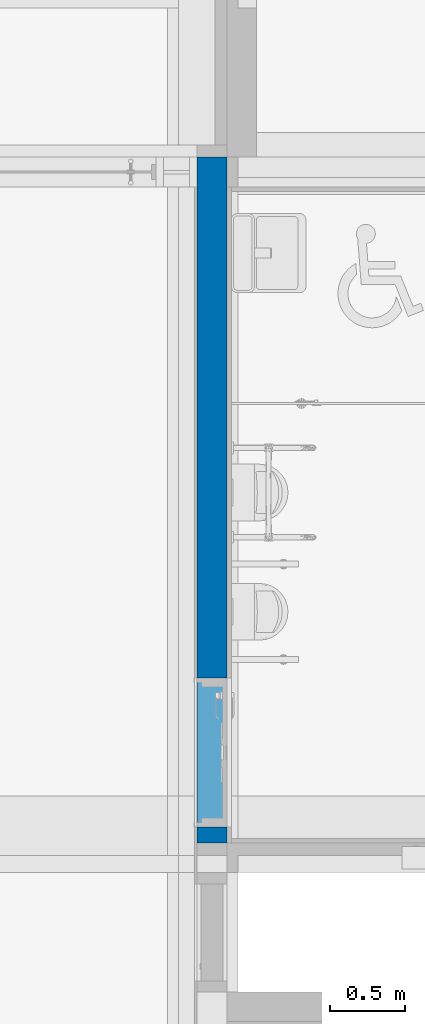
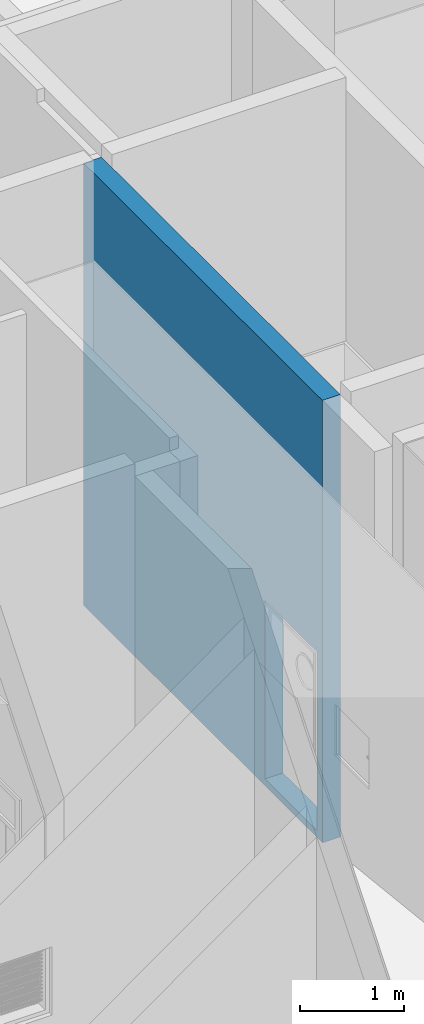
# One storey, part 50 of 100: 1 wall, 1 opening.
"""IFC2X3 building model written with IfcOpenShell, lengths in millimetres."""

from ifc_helpers import new_model, entity, si_unit, converted_unit, derived_unit, direction, frame, frame_2d, origin, place, context, subcontext, project, spatial, polyline, rectangle, extrude, clip, bounded_halfspace, material, layer, layer_set, layer_usage, type_object, element, save


model = new_model("IFC2X3")

# Units and contexts
model_context = context("Model", 3, precision=0.01, world=origin(), true_north=direction((6.123031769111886e-17, 1.0)))
body_context = subcontext(model_context, "Body", "Model", "MODEL_VIEW")
ifc_project = project(units=[si_unit("LENGTHUNIT", "METRE", prefix="MILLI"), si_unit("AREAUNIT", "SQUARE_METRE"), si_unit("VOLUMEUNIT", "CUBIC_METRE"), converted_unit("PLANEANGLEUNIT", "DEGREE", entity("IfcRatioMeasure", 0.017453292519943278), si_unit("PLANEANGLEUNIT", "RADIAN"), dimensions=[0, 0, 0, 0, 0, 0, 0]), si_unit("MASSUNIT", "GRAM", prefix="KILO"), derived_unit("MASSDENSITYUNIT", [(si_unit("MASSUNIT", "GRAM", prefix="KILO"), 1), (si_unit("LENGTHUNIT", "METRE"), -3)]), derived_unit("MOMENTOFINERTIAUNIT", [(si_unit("LENGTHUNIT", "METRE"), 4)]), si_unit("TIMEUNIT", "SECOND"), si_unit("FREQUENCYUNIT", "HERTZ"), si_unit("THERMODYNAMICTEMPERATUREUNIT", "DEGREE_CELSIUS"), derived_unit("THERMALTRANSMITTANCEUNIT", [(si_unit("MASSUNIT", "GRAM", prefix="KILO"), 1), (si_unit("THERMODYNAMICTEMPERATUREUNIT", "KELVIN"), -1), (si_unit("TIMEUNIT", "SECOND"), -3)]), derived_unit("VOLUMETRICFLOWRATEUNIT", [(si_unit("LENGTHUNIT", "METRE"), 3), (si_unit("TIMEUNIT", "SECOND"), -1)]), derived_unit("MASSFLOWRATEUNIT", [(si_unit("MASSUNIT", "GRAM", prefix="KILO"), 1), (si_unit("TIMEUNIT", "SECOND"), -1)]), derived_unit("ROTATIONALFREQUENCYUNIT", [(si_unit("TIMEUNIT", "SECOND"), -1)]), si_unit("ELECTRICCURRENTUNIT", "AMPERE"), si_unit("ELECTRICVOLTAGEUNIT", "VOLT"), si_unit("POWERUNIT", "WATT"), si_unit("FORCEUNIT", "NEWTON", prefix="KILO"), si_unit("ILLUMINANCEUNIT", "LUX"), si_unit("LUMINOUSFLUXUNIT", "LUMEN"), si_unit("LUMINOUSINTENSITYUNIT", "CANDELA"), derived_unit("USERDEFINED", [(si_unit("MASSUNIT", "GRAM", prefix="KILO"), -1), (si_unit("LENGTHUNIT", "METRE"), -2), (si_unit("TIMEUNIT", "SECOND"), 3), (si_unit("LUMINOUSFLUXUNIT", "LUMEN"), 1)]), derived_unit("SOUNDPOWERUNIT", [(si_unit("MASSUNIT", "GRAM", prefix="KILO"), 1), (si_unit("LENGTHUNIT", "METRE"), 2), (si_unit("TIMEUNIT", "SECOND"), -3)]), derived_unit("SOUNDPRESSUREUNIT", [(si_unit("MASSUNIT", "GRAM", prefix="KILO"), 1), (si_unit("LENGTHUNIT", "METRE"), -1), (si_unit("TIMEUNIT", "SECOND"), -2)]), derived_unit("LINEARVELOCITYUNIT", [(si_unit("LENGTHUNIT", "METRE"), 1), (si_unit("TIMEUNIT", "SECOND"), -1)]), si_unit("PRESSUREUNIT", "PASCAL"), derived_unit("USERDEFINED", [(si_unit("LENGTHUNIT", "METRE"), -2), (si_unit("MASSUNIT", "GRAM", prefix="KILO"), 1), (si_unit("TIMEUNIT", "SECOND"), -2)]), derived_unit("LINEARFORCEUNIT", [(si_unit("MASSUNIT", "GRAM", prefix="KILO"), 1), (si_unit("LENGTHUNIT", "METRE"), 1), (si_unit("TIMEUNIT", "SECOND"), -2), (si_unit("LENGTHUNIT", "METRE"), -1)]), derived_unit("PLANARFORCEUNIT", [(si_unit("MASSUNIT", "GRAM", prefix="KILO"), 1), (si_unit("LENGTHUNIT", "METRE"), 1), (si_unit("TIMEUNIT", "SECOND"), -2), (si_unit("LENGTHUNIT", "METRE"), -2)])], contexts=[model_context])

# Site, building, storey
site_placement = place(None, frame((-14167.972527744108, -657.2125860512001, 0.0)))
site = spatial("IfcSite", under=ifc_project, at=site_placement, Name="Default", CompositionType="ELEMENT")
building_placement = place(site_placement, origin())
building = spatial("IfcBuilding", under=site, at=building_placement, Name="Sample Building", CompositionType="ELEMENT")
storey_placement = place(building_placement, origin())
storey = spatial("IfcBuildingStorey", under=building, at=storey_placement, Name="지상 1층", CompositionType="ELEMENT", Elevation=0.0)

# Wall, opening
ifc_material = material(Name="KBIMS-콘크리트")
ifc_layer = layer(ifc_material, 200.0)
ifc_layer_set = layer_set([ifc_layer], Name="기본 벽:WA111-철근콘크리트구조 벽 200mm_CW1")
ifc_layer_usage = layer_usage(ifc_layer_set, "AXIS2", "NEGATIVE", 100.0)
wall_type = type_object("IfcWallType", Name="기본 벽:WA111-철근콘크리트구조 벽 200mm_CW1", PredefinedType="STANDARD", material=ifc_layer_set)
wall_placement = place(storey_placement, frame((38067.96379814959, 22457.212298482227, -550.0), z_axis=(0.0, 0.0, 1.0), x_axis=(0.0, 1.0, 0.0)))
wall = element("IfcWallStandardCase", 1, at=wall_placement, inside=storey, type_object=wall_type, material=ifc_layer_usage, Name="기본 벽:WA111-철근콘크리트구조 벽 200mm_CW1", ObjectType="기본 벽:WA111-철근콘크리트구조 벽 200mm_CW1", context=body_context, shape_type="Clipping", body=[
    clip(extrude(rectangle(XDim=199.99999999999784, YDim=4599.99999665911, at=frame_2d((2299.999998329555, 0.0), x_axis=(0.0, 1.0))), origin(), (0.0, 0.0, 1.0), 5200.000000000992), bounded_halfspace(frame((0.0, -100.0, 5200.0), z_axis=(0.0, 0.0, -1.0), x_axis=(0.0, -1.0, 0.0)), True, frame((0.0, -100.0, 5200.0), z_axis=(0.0, 0.0, -1.0), x_axis=(0.0, -1.0, 0.0)), polyline([(0.0, 0.0), (-60960.0, 0.0), (-60960.0, -60959.94360369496), (-60960.0, -1402080.0), (0.0, -1402080.0), (0.0, 0.0)]))),
])
opening_placement = place(wall_placement, frame((1106.4605196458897, 100.0, 80.0)))
element("IfcOpeningElement", 2, at=opening_placement, cuts=wall, Name="DR111-외여닫이문(철재,일반)_유리포함(원형):DR111-외여닫이문(철재, 일반)_유리포함 (원형)_2100x1000:1", ObjectType="Opening", context=body_context, shape_type="SweptSolid", body=[
    extrude(rectangle(XDim=2099.999999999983, YDim=999.9999999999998, at=frame_2d((1049.9999999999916, 499.9999999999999), x_axis=(1.0, 0.0))), frame((0.0, 0.0, 0.0), z_axis=(0.0, -1.0, 0.0), x_axis=(0.0, 0.0, 1.0)), (0.0, 0.0, 1.0), 200.0),
])

save(model, "model.ifc")
